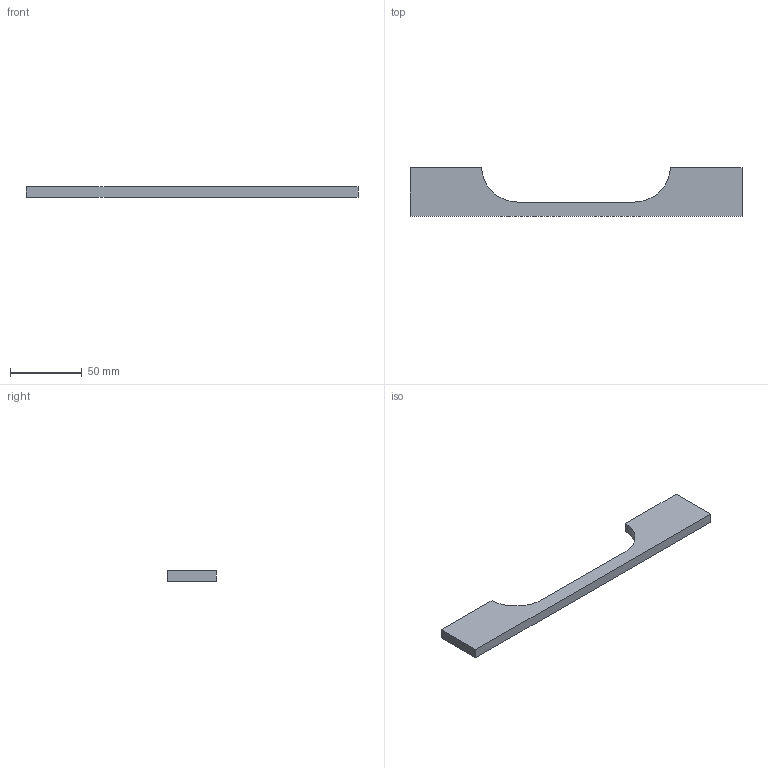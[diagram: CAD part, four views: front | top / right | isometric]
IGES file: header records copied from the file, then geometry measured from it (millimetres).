
Start section: Data from Parasolid IGES Translator 15.0.47, Copyright(c) 2006 Siemens P LM Software. All Rights Reserved.
Global section: file name: 9071926.igs; native system:  By UGS Corp.; preprocessor: XPlus GENERIC/IGES 3.0; author: Noname; organization: Noname; date: 20160311.190122; units: millimetre
Bounding box: 232 x 34 x 7 mm (x, y, z)
Surface area: 14286.7 mm2 (no closed solid volume)
Topology: 0 solids, 0 shells, 18 faces, 72 edges, 66 vertices
Faces by surface type: extrusion 12, revolution 6
